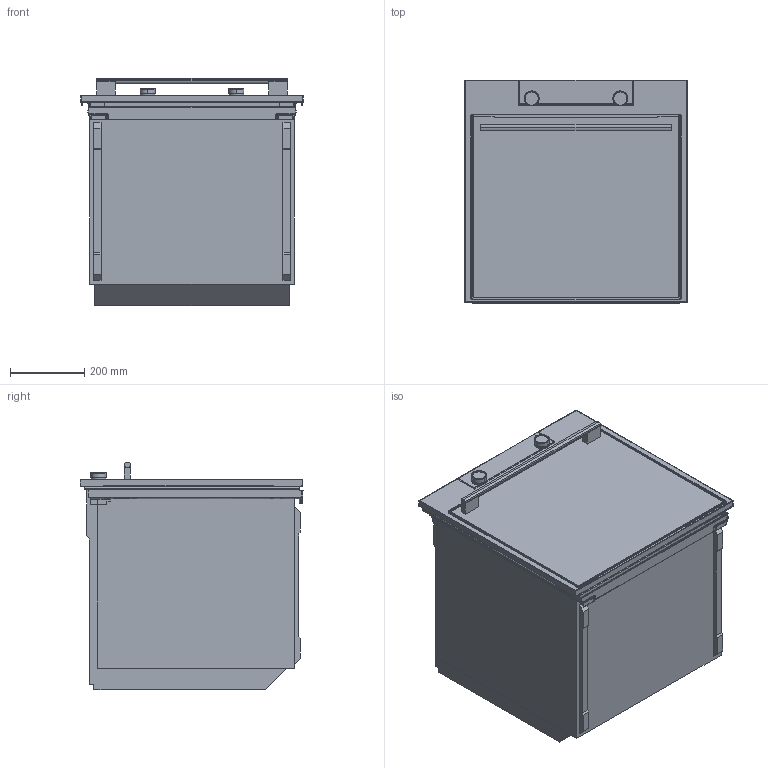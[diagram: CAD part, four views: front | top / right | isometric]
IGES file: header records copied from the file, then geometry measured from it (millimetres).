
Start section: SolidWorks IGES file using analytic representation for surfaces
Global section: file name: E:\3D za kuhinjaše\3D za kuhinjaše-ASKO\500365_OP8687S\500365_OP8687S\500365_OP8687S.IGS; native system: SolidWorks 2016; preprocessor: SolidWorks 2016; author: kristijan.lamesic; date: 170914.093710; units: millimetre
Bounding box: 597 x 600.7 x 610.17 mm (x, y, z)
Surface area: 3654372.9 mm2 (no closed solid volume)
Topology: 0 solids, 0 shells, 509 faces, 5420 edges, 5420 vertices
Faces by surface type: bspline 304, revolution 205
